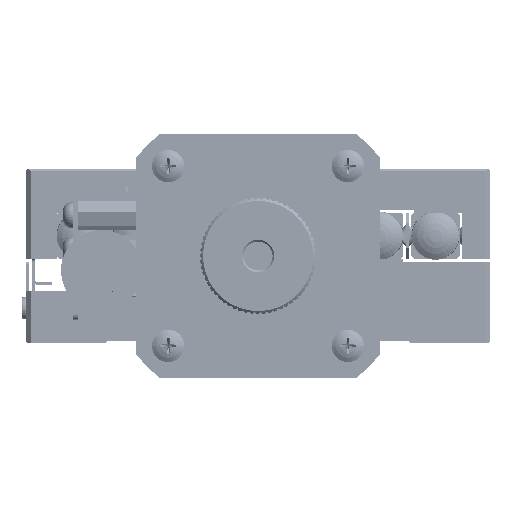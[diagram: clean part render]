
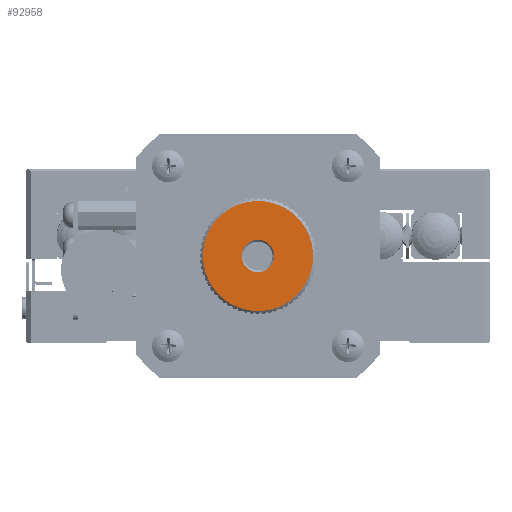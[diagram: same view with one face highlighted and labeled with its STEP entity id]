
A CAD part, front view. The second image highlights one B-rep face of the part: STEP entity #92958.
In plain terms, the highlighted planar face has unit normal (0, -1, 0).
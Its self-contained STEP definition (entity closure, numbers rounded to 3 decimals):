
#8594 = VERTEX_POINT ( 'NONE', #37479 ) ;
#14183 = DIRECTION ( 'NONE',  ( 0.936, 0., 0.352 ) ) ;
#18535 = CARTESIAN_POINT ( 'NONE',  ( 0., -133., 15. ) ) ;
#19856 = ORIENTED_EDGE ( 'NONE', *, *, #78179, .T. ) ;
#25828 = CARTESIAN_POINT ( 'NONE',  ( 0., -133., 15. ) ) ;
#34565 = ORIENTED_EDGE ( 'NONE', *, *, #209793, .T. ) ;
#37479 = CARTESIAN_POINT ( 'NONE',  ( -2.621, -133., 14.015 ) ) ;
#42887 = AXIS2_PLACEMENT_3D ( 'NONE', #65919, #49615, #115843 ) ;
#45663 = EDGE_CURVE ( 'NONE', #211268, #151494, #145139, .T. ) ;
#48065 = AXIS2_PLACEMENT_3D ( 'NONE', #18535, #184606, #185657 ) ;
#49615 = DIRECTION ( 'NONE',  ( 0., -1., 0. ) ) ;
#53485 = CARTESIAN_POINT ( 'NONE',  ( 2.621, -133., 15.985 ) ) ;
#54938 = ORIENTED_EDGE ( 'NONE', *, *, #45663, .T. ) ;
#64557 = EDGE_CURVE ( 'NONE', #173283, #8594, #104050, .T. ) ;
#65919 = CARTESIAN_POINT ( 'NONE',  ( 0., -133., 15. ) ) ;
#69841 = EDGE_LOOP ( 'NONE', ( #19856, #54938 ) ) ;
#78179 = EDGE_CURVE ( 'NONE', #151494, #211268, #136517, .T. ) ;
#92144 = DIRECTION ( 'NONE',  ( 0., 1., 0. ) ) ;
#92958 = ADVANCED_FACE ( 'NONE', ( #208021, #125619 ), #191788, .F. ) ;
#96739 = CARTESIAN_POINT ( 'NONE',  ( 0., -133., 15. ) ) ;
#104050 = CIRCLE ( 'NONE', #145713, 2.8 ) ;
#115843 = DIRECTION ( 'NONE',  ( 0.936, 0., 0.352 ) ) ;
#116622 = CARTESIAN_POINT ( 'NONE',  ( 8.892, -133., 18.343 ) ) ;
#120886 = CIRCLE ( 'NONE', #203999, 2.8 ) ;
#125201 = EDGE_LOOP ( 'NONE', ( #34565, #139075 ) ) ;
#125619 = FACE_OUTER_BOUND ( 'NONE', #69841, .T. ) ;
#136517 = CIRCLE ( 'NONE', #42887, 9.5 ) ;
#139075 = ORIENTED_EDGE ( 'NONE', *, *, #64557, .T. ) ;
#145139 = CIRCLE ( 'NONE', #48065, 9.5 ) ;
#145713 = AXIS2_PLACEMENT_3D ( 'NONE', #96739, #162880, #14183 ) ;
#151494 = VERTEX_POINT ( 'NONE', #116622 ) ;
#162880 = DIRECTION ( 'NONE',  ( 0., 1., 0. ) ) ;
#167581 = DIRECTION ( 'NONE',  ( 0., 1., 0. ) ) ;
#173283 = VERTEX_POINT ( 'NONE', #53485 ) ;
#173543 = DIRECTION ( 'NONE',  ( 0.936, 0., 0.352 ) ) ;
#182749 = DIRECTION ( 'NONE',  ( 0.936, 0., 0.352 ) ) ;
#184606 = DIRECTION ( 'NONE',  ( 0., -1., 0. ) ) ;
#185657 = DIRECTION ( 'NONE',  ( 0.936, 0., 0.352 ) ) ;
#186672 = AXIS2_PLACEMENT_3D ( 'NONE', #200073, #167581, #182749 ) ;
#191788 = PLANE ( 'NONE',  #186672 ) ;
#200073 = CARTESIAN_POINT ( 'NONE',  ( 0., -133., 15. ) ) ;
#201713 = CARTESIAN_POINT ( 'NONE',  ( -8.892, -133., 11.657 ) ) ;
#203999 = AXIS2_PLACEMENT_3D ( 'NONE', #25828, #92144, #173543 ) ;
#208021 = FACE_BOUND ( 'NONE', #125201, .T. ) ;
#209793 = EDGE_CURVE ( 'NONE', #8594, #173283, #120886, .T. ) ;
#211268 = VERTEX_POINT ( 'NONE', #201713 ) ;
